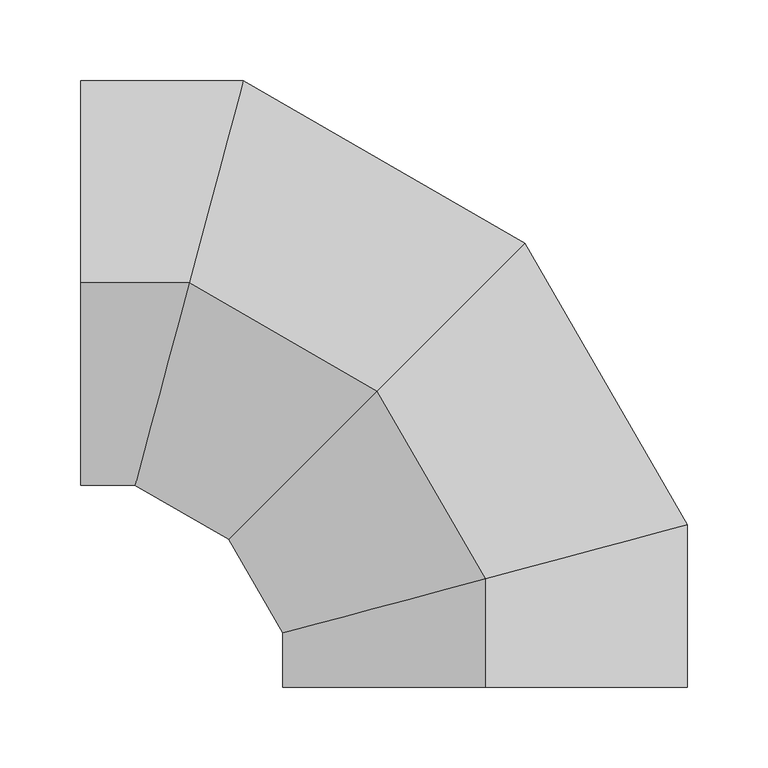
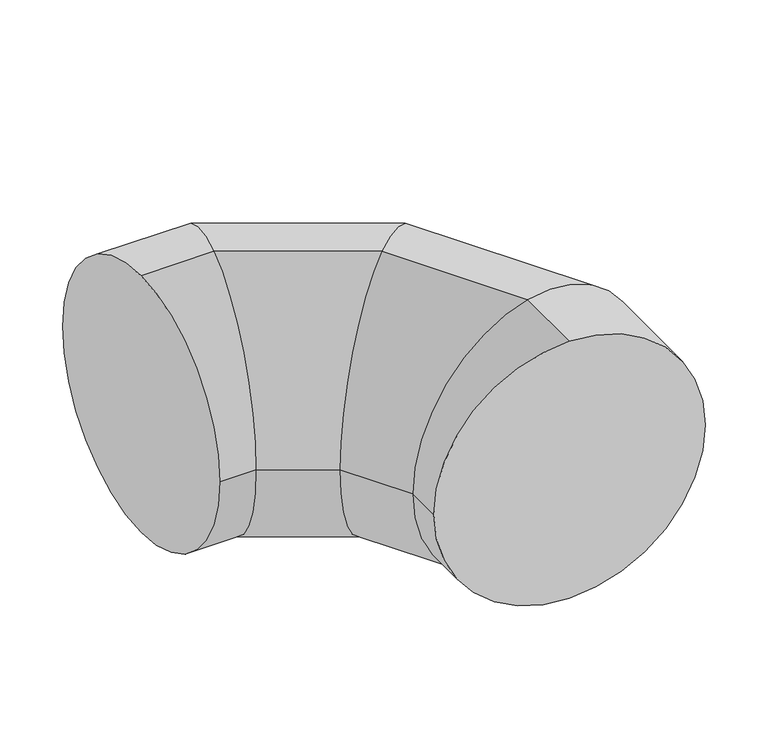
"""IFC4 building model written with IfcOpenShell, lengths in millimetres: duct fitting geometry, ADSK_ОтводВоздуховодов_Круглый : Стандарт."""

from ifc_helpers import new_model, si_unit, frame, origin, place, context, project, spatial, circle_curve, ellipse_curve, source, transform, mapped, element, save
from ifc_brep_helpers import plane_surface, cylinder_surface, advanced_brep


def duct_fitting_79440b35(model_context):
    return source(origin(), model_context, "Body", "AdvancedBrep", [
        advanced_brep(
        [(-250.0, 0.0, 125.0), (-250.0, 125.0, 0.0), (-250.0, 0.0, -125.0), (-250.0, -125.0, 0.0), (-216.5063509, -125.0, 0.0), (-183.0127019, 0.0, 125.0), (-183.0127019, 0.0, -125.0), (-149.5190528, 125.0, 0.0), (-158.4936491, -158.4936491, 0.0), (-66.9872981, -66.9872981, 125.0), (-66.9872981, -66.9872981, -125.0), (24.5190528, 24.5190528, 0.0), (-125.0, -216.5063509, 0.0), (0.0, -183.0127019, 125.0), (0.0, -183.0127019, -125.0), (125.0, -149.5190528, 0.0), (0.0, -250.0, 125.0), (-125.0, -250.0, 0.0), (0.0, -250.0, -125.0), (125.0, -250.0, 0.0)],
        [
            (0, 1, circle_curve(frame((-250.0, 0.0, 0.0), z_axis=(-1.0, 0.0, 0.0), x_axis=(0.0, -1.0, 0.0)), 125.0)),
            (1, 2, circle_curve(frame((-250.0, 0.0, 0.0), z_axis=(-1.0, 0.0, 0.0), x_axis=(0.0, -1.0, 0.0)), 125.0)),
            (2, 3, circle_curve(frame((-250.0, 0.0, 0.0), z_axis=(-1.0, 0.0, 0.0), x_axis=(0.0, -1.0, 0.0)), 125.0)),
            (3, 0, circle_curve(frame((-250.0, 0.0, 0.0), z_axis=(-1.0, 0.0, 0.0), x_axis=(0.0, -1.0, 0.0)), 125.0)),
            (3, 4),
            (4, 5, ellipse_curve(frame((-183.0127019, 0.0, 0.0), z_axis=(-0.9659258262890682, 0.2588190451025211, 0.0), x_axis=(-0.2588190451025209, -0.9659258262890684, 0.0)), 129.4095226, 125.0)),
            (5, 0),
            (2, 6),
            (6, 4, ellipse_curve(frame((-183.0127019, 0.0, 0.0), z_axis=(-0.9659258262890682, 0.2588190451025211, 0.0), x_axis=(-0.2588190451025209, -0.9659258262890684, 0.0)), 129.4095226, 125.0)),
            (1, 7),
            (7, 6, ellipse_curve(frame((-183.0127019, 0.0, 0.0), z_axis=(-0.9659258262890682, 0.2588190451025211, 0.0), x_axis=(-0.2588190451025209, -0.9659258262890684, 0.0)), 129.4095226, 125.0)),
            (5, 7, ellipse_curve(frame((-183.0127019, 0.0, 0.0), z_axis=(-0.9659258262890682, 0.2588190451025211, 0.0), x_axis=(-0.2588190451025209, -0.9659258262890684, 0.0)), 129.4095226, 125.0)),
            (4, 8),
            (8, 9, ellipse_curve(frame((-66.9872981, -66.9872981, 0.0), z_axis=(-0.7071067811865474, 0.7071067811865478, 0.0), x_axis=(-0.7071067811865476, -0.7071067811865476, 0.0)), 129.4095226, 125.0)),
            (9, 5),
            (6, 10),
            (10, 8, ellipse_curve(frame((-66.9872981, -66.9872981, 0.0), z_axis=(-0.7071067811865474, 0.7071067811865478, 0.0), x_axis=(-0.7071067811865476, -0.7071067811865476, 0.0)), 129.4095226, 125.0)),
            (7, 11),
            (11, 10, ellipse_curve(frame((-66.9872981, -66.9872981, 0.0), z_axis=(-0.7071067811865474, 0.7071067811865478, 0.0), x_axis=(-0.7071067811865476, -0.7071067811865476, 0.0)), 129.4095226, 125.0)),
            (9, 11, ellipse_curve(frame((-66.9872981, -66.9872981, 0.0), z_axis=(-0.7071067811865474, 0.7071067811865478, 0.0), x_axis=(-0.7071067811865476, -0.7071067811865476, 0.0)), 129.4095226, 125.0)),
            (8, 12),
            (12, 13, ellipse_curve(frame((0.0, -183.0127019, 0.0), z_axis=(-0.25881904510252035, 0.9659258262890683, 0.0), x_axis=(-0.9659258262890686, -0.2588190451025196, 0.0)), 129.4095226, 125.0)),
            (13, 9),
            (10, 14),
            (14, 12, ellipse_curve(frame((0.0, -183.0127019, 0.0), z_axis=(-0.25881904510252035, 0.9659258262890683, 0.0), x_axis=(-0.9659258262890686, -0.2588190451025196, 0.0)), 129.4095226, 125.0)),
            (11, 15),
            (15, 14, ellipse_curve(frame((0.0, -183.0127019, 0.0), z_axis=(-0.25881904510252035, 0.9659258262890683, 0.0), x_axis=(-0.9659258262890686, -0.2588190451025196, 0.0)), 129.4095226, 125.0)),
            (13, 15, ellipse_curve(frame((0.0, -183.0127019, 0.0), z_axis=(-0.25881904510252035, 0.9659258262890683, 0.0), x_axis=(-0.9659258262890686, -0.2588190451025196, 0.0)), 129.4095226, 125.0)),
            (16, 17, circle_curve(frame((0.0, -250.0, 0.0), z_axis=(0.0, -1.0, 0.0), x_axis=(-1.0, 0.0, 0.0)), 125.0)),
            (17, 18, circle_curve(frame((0.0, -250.0, 0.0), z_axis=(0.0, -1.0, 0.0), x_axis=(-1.0, 0.0, 0.0)), 125.0)),
            (18, 19, circle_curve(frame((0.0, -250.0, 0.0), z_axis=(0.0, -1.0, 0.0), x_axis=(-1.0, 0.0, 0.0)), 125.0)),
            (19, 16, circle_curve(frame((0.0, -250.0, 0.0), z_axis=(0.0, -1.0, 0.0), x_axis=(-1.0, 0.0, 0.0)), 125.0)),
            (12, 17),
            (16, 13),
            (14, 18),
            (15, 19),
        ],
        [
            plane_surface(frame((-250.0, 0.0, 0.0), z_axis=(-1.0, 0.0, 0.0), x_axis=(0.0, 0.0, 1.0))),
            cylinder_surface(frame((-250.0, 0.0, 0.0), z_axis=(-1.0, 0.0, 0.0), x_axis=(0.0, -1.0, 0.0)), 125.0),
            cylinder_surface(frame((-183.0127019, 0.0, 0.0), z_axis=(-0.8660254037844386, 0.5000000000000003, 0.0), x_axis=(-0.5000000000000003, -0.8660254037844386, 0.0)), 125.0),
            cylinder_surface(frame((-66.9872981, -66.9872981, 0.0), z_axis=(-0.49999999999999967, 0.8660254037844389, 0.0), x_axis=(-0.8660254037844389, -0.49999999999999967, 0.0)), 125.0),
            plane_surface(frame((0.0, -250.0, 0.0), z_axis=(0.0, -1.0, 0.0), x_axis=(0.0, 0.0, 1.0))),
            cylinder_surface(frame((0.0, -183.0127019, 0.0), z_axis=(0.0, 1.0, 0.0), x_axis=(-1.0, 0.0, 0.0)), 125.0),
        ],
        [
            (0, [[1, 2, 3, 4]]),
            (1, [[5, 6, 7, -4]]),
            (1, [[8, 9, -5, -3]]),
            (1, [[10, 11, -8, -2]]),
            (1, [[-7, 12, -10, -1]]),
            (2, [[13, 14, 15, -6]]),
            (2, [[16, 17, -13, -9]]),
            (2, [[18, 19, -16, -11]]),
            (2, [[-15, 20, -18, -12]]),
            (3, [[21, 22, 23, -14]]),
            (3, [[24, 25, -21, -17]]),
            (3, [[26, 27, -24, -19]]),
            (3, [[-23, 28, -26, -20]]),
            (4, [[29, 30, 31, 32]]),
            (5, [[33, -29, 34, -22]]),
            (5, [[35, -30, -33, -25]]),
            (5, [[36, -31, -35, -27]]),
            (5, [[-34, -32, -36, -28]]),
        ],
    ),
    ])


if __name__ == "__main__":
    model = new_model("IFC4")
    model_context = context("Model", 3, world=origin())
    ifc_project = project(units=[si_unit("LENGTHUNIT", "METRE", prefix="MILLI")], contexts=[model_context])
    site = spatial("IfcSite", under=ifc_project)
    building = spatial("IfcBuilding", under=site)
    placement = place(None, origin())
    duct_fitting_shape = duct_fitting_79440b35(model_context)
    element("IfcDuctFitting", 1, ObjectType="ADSK_ОтводВоздуховодов_Круглый : Стандарт", at=placement, inside=building, context=model_context, shape_type="MappedRepresentation", body=[
        mapped(duct_fitting_shape, transform((0.0, 0.0, 0.0), x_axis=(1.0, 0.0, 0.0), y_axis=(0.0, 1.0, 0.0), z_axis=(0.0, 0.0, 1.0))),
    ])
    save(model, "model.ifc")
